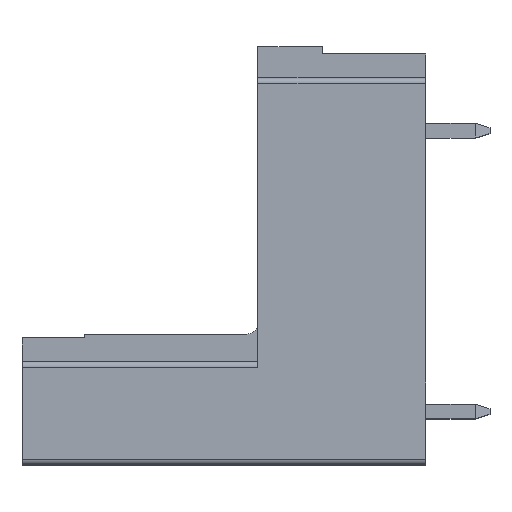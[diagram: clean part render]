
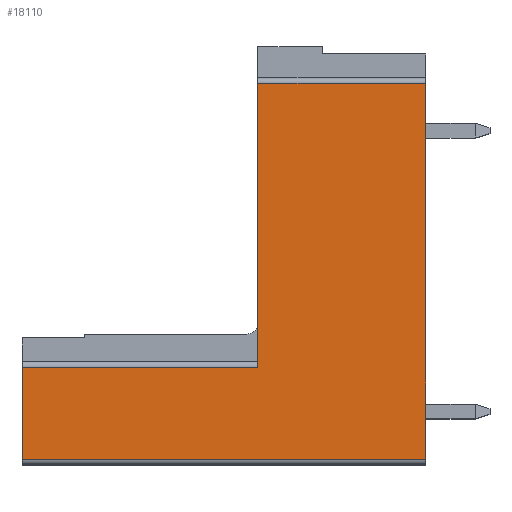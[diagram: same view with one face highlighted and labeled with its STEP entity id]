
A CAD part, top view. The second image highlights one B-rep face of the part: STEP entity #18110.
In plain terms, the highlighted planar face has unit normal (0, 0, 1).
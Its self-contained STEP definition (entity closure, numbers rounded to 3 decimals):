
#3186=DIRECTION('',(1.,0.,0.));
#3187=VECTOR('',#3186,21.9);
#3188=CARTESIAN_POINT('',(0.,0.374,
-11.804));
#3189=LINE('',#3188,#3187);
#3190=DIRECTION('',(0.,1.,0.));
#3191=VECTOR('',#3190,15.4);
#3192=CARTESIAN_POINT('',(12.8,5.374,-11.804));
#3193=LINE('',#3192,#3191);
#3194=DIRECTION('',(0.,-1.,0.));
#3195=VECTOR('',#3194,20.4);
#3196=CARTESIAN_POINT('',(21.9,20.774,-11.804));
#3197=LINE('',#3196,#3195);
#3198=DIRECTION('',(0.,1.,0.));
#3199=VECTOR('',#3198,5.);
#3200=CARTESIAN_POINT('',(0.,0.374,
-11.804));
#3201=LINE('',#3200,#3199);
#3206=DIRECTION('',(-1.,0.,0.));
#3207=VECTOR('',#3206,12.8);
#3208=CARTESIAN_POINT('',(12.8,5.374,-11.804));
#3209=LINE('',#3208,#3207);
#3231=DIRECTION('',(-1.,0.,0.));
#3232=VECTOR('',#3231,9.1);
#3233=CARTESIAN_POINT('',(21.9,20.774,-11.804));
#3234=LINE('',#3233,#3232);
#9782=CARTESIAN_POINT('',(21.9,0.374,
-11.804));
#9783=VERTEX_POINT('',#9782);
#9784=CARTESIAN_POINT('',(21.9,20.774,-11.804));
#9785=VERTEX_POINT('',#9784);
#10032=CARTESIAN_POINT('',(0.,5.374,
-11.804));
#10033=VERTEX_POINT('',#10032);
#10034=CARTESIAN_POINT('',(0.,0.374,
-11.804));
#10035=VERTEX_POINT('',#10034);
#10158=CARTESIAN_POINT('',(12.8,20.774,
-11.804));
#10159=VERTEX_POINT('',#10158);
#10160=CARTESIAN_POINT('',(12.8,5.374,
-11.804));
#10161=VERTEX_POINT('',#10160);
#18095=CARTESIAN_POINT('',(17.35,11.424,
-11.804));
#18096=DIRECTION('',(0.,0.,1.));
#18097=DIRECTION('',(1.,0.,0.));
#18098=AXIS2_PLACEMENT_3D('',#18095,#18096,#18097);
#18099=PLANE('',#18098);
#18101=ORIENTED_EDGE('',*,*,#18100,.F.);
#18102=ORIENTED_EDGE('',*,*,#12474,.T.);
#18104=ORIENTED_EDGE('',*,*,#18103,.F.);
#18105=ORIENTED_EDGE('',*,*,#17960,.T.);
#18106=ORIENTED_EDGE('',*,*,#18090,.F.);
#18107=ORIENTED_EDGE('',*,*,#12277,.T.);
#18108=EDGE_LOOP('',(#18101,#18102,#18104,#18105,#18106,#18107));
#18109=FACE_OUTER_BOUND('',#18108,.F.);
#18110=ADVANCED_FACE('',(#18109),#18099,.T.);
#12277=EDGE_CURVE('',#10035,#10033,#3201,.T.);
#12474=EDGE_CURVE('',#10161,#10159,#3193,.T.);
#17960=EDGE_CURVE('',#9785,#9783,#3197,.T.);
#18090=EDGE_CURVE('',#10035,#9783,#3189,.T.);
#18100=EDGE_CURVE('',#10161,#10033,#3209,.T.);
#18103=EDGE_CURVE('',#9785,#10159,#3234,.T.);
